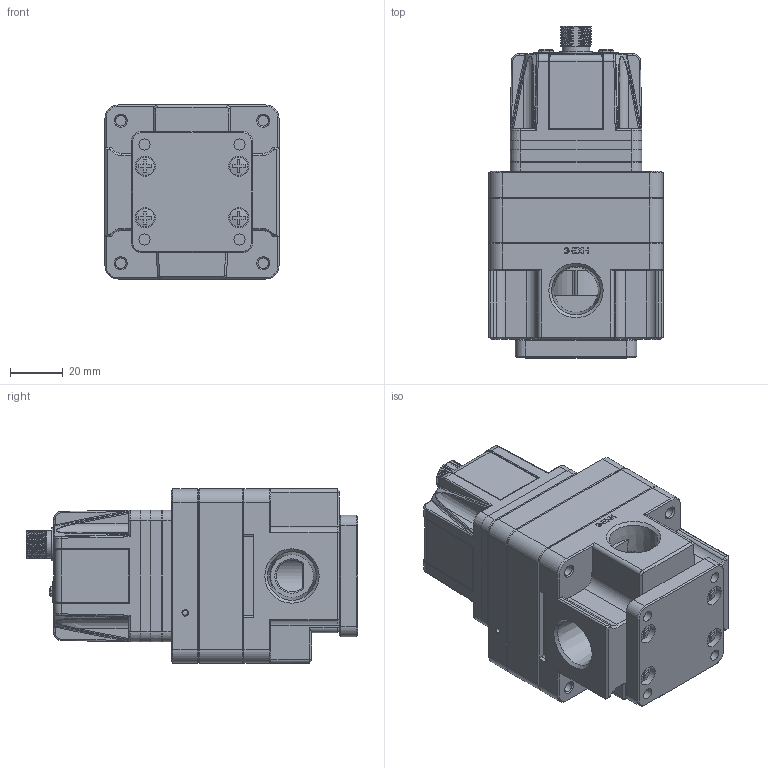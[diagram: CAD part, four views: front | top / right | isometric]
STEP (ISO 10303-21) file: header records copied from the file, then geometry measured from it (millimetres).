
FILE_DESCRIPTION(/* description */ ('Prop. Druckregler 0,05-9bar'),/* implementation_level */ '2;1');
FILE_NAME(/* name */ 'X:\Zeichnungen\3D\82-EPV-3.stp',/* time_stamp */ '2022-11-15T06:58:55+01:00',/* author */ ('Tschernatsch'),/* organization */ (''),/* preprocessor_version */ 'ST-DEVELOPER v17.2',/* originating_system */ 'Autodesk Inventor 2019',/* authorisation */ '');
FILE_SCHEMA (('AUTOMOTIVE_DESIGN { 1 0 10303 214 3 1 1 }'));
Products named in the file (1): 82-EPV-3-5-0-3-F4
Bounding box: 66 x 125.8 x 66 mm (x, y, z)
Volume: 266270.8 mm3; surface area: 71550.2 mm2
Topology: 1 solids, 13 shells, 2567 faces, 6619 edges, 4183 vertices
Faces by surface type: plane 1289, cylinder 598, bspline 281, cone 192, torus 177, sphere 30
Full cylindrical faces by diameter (mm): 1 x4, 1.2 x4, 1.4 x4, 2 x4, 2.5 x1, 3.5 x4, 4 x13, 4.2 x4, 4.5 x8, 5 x2, 5.5 x4, 6.2 x1, 6.3 x4, 6.9 x8, 7.6 x4, 8.3 x2, 9 x4, 10.4 x1, 11 x1, 12 x1, 12.5 x1, 15 x1, 15.8 x2, 20.4 x1, 28 x2, 31.5 x1
Entity records: 108263 total; most frequent: CARTESIAN_POINT 44428, ORIENTED_EDGE 13210, DIRECTION 12678, EDGE_CURVE 6605, AXIS2_PLACEMENT_3D 4407, VERTEX_POINT 4183, LINE 3864, VECTOR 3864
